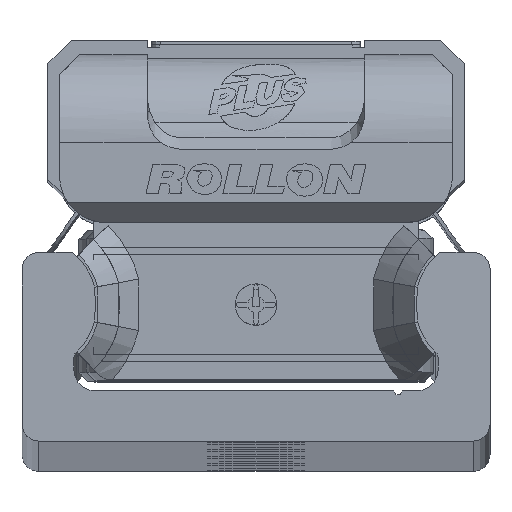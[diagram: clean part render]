
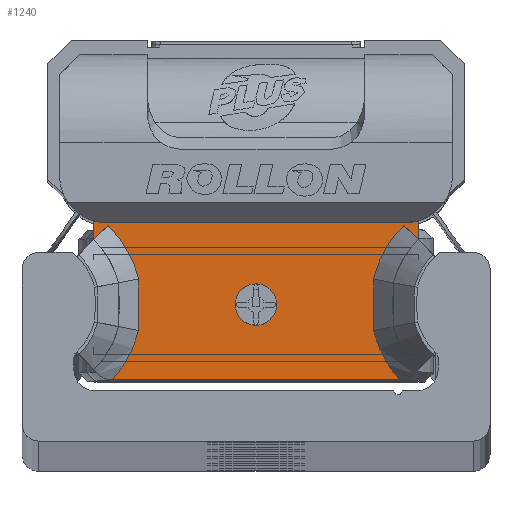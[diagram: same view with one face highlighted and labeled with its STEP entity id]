
A CAD part, top view. The second image highlights one B-rep face of the part: STEP entity #1240.
In plain terms, the highlighted planar face has unit normal (0, 0, 1) as drawn and (0, 0, -1) by its records, which use the part's own axes.
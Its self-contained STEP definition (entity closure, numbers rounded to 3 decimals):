
#1240 = ADVANCED_FACE( '', ( #2890, #2891 ), #2892, .F. );
#2890 = FACE_BOUND( '', #5101, .T. );
#2891 = FACE_OUTER_BOUND( '', #5102, .T. );
#2892 = PLANE( '', #5103 );
#5101 = EDGE_LOOP( '', ( #8725 ) );
#5102 = EDGE_LOOP( '', ( #8726, #8727, #8728, #8729, #8730, #8731, #8732, #8733, #8734, #8735, #8736, #8737, #8738, #8739 ) );
#5103 = AXIS2_PLACEMENT_3D( '', #8740, #8741, #8742 );
#8725 = ORIENTED_EDGE( '', *, *, #13471, .T. );
#8726 = ORIENTED_EDGE( '', *, *, #13472, .F. );
#8727 = ORIENTED_EDGE( '', *, *, #13473, .T. );
#8728 = ORIENTED_EDGE( '', *, *, #13474, .T. );
#8729 = ORIENTED_EDGE( '', *, *, #12751, .T. );
#8730 = ORIENTED_EDGE( '', *, *, #12591, .T. );
#8731 = ORIENTED_EDGE( '', *, *, #13475, .T. );
#8732 = ORIENTED_EDGE( '', *, *, #13476, .T. );
#8733 = ORIENTED_EDGE( '', *, *, #13477, .T. );
#8734 = ORIENTED_EDGE( '', *, *, #13478, .T. );
#8735 = ORIENTED_EDGE( '', *, *, #13479, .T. );
#8736 = ORIENTED_EDGE( '', *, *, #13480, .T. );
#8737 = ORIENTED_EDGE( '', *, *, #12661, .T. );
#8738 = ORIENTED_EDGE( '', *, *, #13175, .T. );
#8739 = ORIENTED_EDGE( '', *, *, #13481, .T. );
#8740 = CARTESIAN_POINT( '', ( 9.7, 4.89, -10.6 ) );
#8741 = DIRECTION( '', ( 0., 0., 1. ) );
#8742 = DIRECTION( '', ( 1., 0., 0. ) );
#12591 = EDGE_CURVE( '', #15038, #15039, #15040, .T. );
#12661 = EDGE_CURVE( '', #15159, #15157, #15160, .T. );
#12751 = EDGE_CURVE( '', #15309, #15038, #15315, .T. );
#13175 = EDGE_CURVE( '', #15157, #16008, #16009, .T. );
#13471 = EDGE_CURVE( '', #16460, #16460, #16461, .T. );
#13472 = EDGE_CURVE( '', #16462, #16463, #16464, .T. );
#13473 = EDGE_CURVE( '', #16462, #16465, #16466, .T. );
#13474 = EDGE_CURVE( '', #16465, #15309, #16467, .T. );
#13475 = EDGE_CURVE( '', #15039, #16468, #16469, .T. );
#13476 = EDGE_CURVE( '', #16468, #16470, #16471, .T. );
#13477 = EDGE_CURVE( '', #16470, #16472, #16473, .T. );
#13478 = EDGE_CURVE( '', #16472, #16253, #16474, .T. );
#13479 = EDGE_CURVE( '', #16253, #16475, #16476, .T. );
#13480 = EDGE_CURVE( '', #16475, #15159, #16477, .T. );
#13481 = EDGE_CURVE( '', #16008, #16463, #16478, .T. );
#15038 = VERTEX_POINT( '', #18535 );
#15039 = VERTEX_POINT( '', #18536 );
#15040 = LINE( '', #18537, #18538 );
#15157 = VERTEX_POINT( '', #18703 );
#15159 = VERTEX_POINT( '', #18706 );
#15160 = B_SPLINE_CURVE_WITH_KNOTS( '', 2, ( #18707, #18708, #18709 ), .UNSPECIFIED., .F., .F., ( 3, 3 ), ( 0., 1. ), .UNSPECIFIED. );
#15309 = VERTEX_POINT( '', #18950 );
#15315 = CIRCLE( '', #18958, 2.8 );
#16008 = VERTEX_POINT( '', #20024 );
#16009 = B_SPLINE_CURVE_WITH_KNOTS( '', 2, ( #20025, #20026, #20027 ), .UNSPECIFIED., .F., .F., ( 3, 3 ), ( 0., 1. ), .UNSPECIFIED. );
#16253 = VERTEX_POINT( '', #20343 );
#16460 = VERTEX_POINT( '', #20638 );
#16461 = CIRCLE( '', #20639, 1.25 );
#16462 = VERTEX_POINT( '', #20640 );
#16463 = VERTEX_POINT( '', #20641 );
#16464 = LINE( '', #20642, #20643 );
#16465 = VERTEX_POINT( '', #20644 );
#16466 = CIRCLE( '', #20645, 2.8 );
#16467 = LINE( '', #20646, #20647 );
#16468 = VERTEX_POINT( '', #20648 );
#16469 = LINE( '', #20649, #20650 );
#16470 = VERTEX_POINT( '', #20651 );
#16471 = B_SPLINE_CURVE_WITH_KNOTS( '', 2, ( #20652, #20653, #20654, #20655, #20656 ), .UNSPECIFIED., .F., .F., ( 3, 2, 3 ), ( 0., 0.5, 1. ), .UNSPECIFIED. );
#16472 = VERTEX_POINT( '', #20657 );
#16473 = B_SPLINE_CURVE_WITH_KNOTS( '', 2, ( #20658, #20659, #20660 ), .UNSPECIFIED., .F., .F., ( 3, 3 ), ( 0., 1. ), .UNSPECIFIED. );
#16474 = B_SPLINE_CURVE_WITH_KNOTS( '', 2, ( #20661, #20662, #20663 ), .UNSPECIFIED., .F., .F., ( 3, 3 ), ( 0., 1. ), .UNSPECIFIED. );
#16475 = VERTEX_POINT( '', #20664 );
#16476 = LINE( '', #20665, #20666 );
#16477 = B_SPLINE_CURVE_WITH_KNOTS( '', 2, ( #20667, #20668, #20669 ), .UNSPECIFIED., .F., .F., ( 3, 3 ), ( 0.1, 1. ), .UNSPECIFIED. );
#16478 = LINE( '', #20670, #20671 );
#18535 = CARTESIAN_POINT( '', ( 9.7, 4.612, -10.6 ) );
#18536 = CARTESIAN_POINT( '', ( 9.7, 3.497, -10.6 ) );
#18537 = CARTESIAN_POINT( '', ( 9.7, 4.89, -10.6 ) );
#18538 = VECTOR( '', #22825, 1000. );
#18703 = CARTESIAN_POINT( '', ( -7.031, 1.144, -10.6 ) );
#18706 = CARTESIAN_POINT( '', ( -7.031, -1.944, -10.6 ) );
#18707 = CARTESIAN_POINT( '', ( -7.031, -1.944, -10.6 ) );
#18708 = CARTESIAN_POINT( '', ( -6.929, -0.4, -10.6 ) );
#18709 = CARTESIAN_POINT( '', ( -7.031, 1.144, -10.6 ) );
#18950 = CARTESIAN_POINT( '', ( 8.95, 4.51, -10.6 ) );
#18958 = AXIS2_PLACEMENT_3D( '', #23038, #23039, #23040 );
#20024 = CARTESIAN_POINT( '', ( -8.853, 4.366, -10.6 ) );
#20025 = CARTESIAN_POINT( '', ( -7.031, 1.144, -10.6 ) );
#20026 = CARTESIAN_POINT( '', ( -7.477, 3.018, -10.6 ) );
#20027 = CARTESIAN_POINT( '', ( -8.853, 4.366, -10.6 ) );
#20343 = CARTESIAN_POINT( '', ( 8.59, -4.893, -10.6 ) );
#20638 = CARTESIAN_POINT( '', ( 1.25, -0.39, -10.6 ) );
#20639 = AXIS2_PLACEMENT_3D( '', #24063, #24064, #24065 );
#20640 = CARTESIAN_POINT( '', ( -9.7, 4.612, -10.6 ) );
#20641 = CARTESIAN_POINT( '', ( -9.7, 3.494, -10.6 ) );
#20642 = CARTESIAN_POINT( '', ( -9.7, 4.89, -10.6 ) );
#20643 = VECTOR( '', #24066, 1000. );
#20644 = CARTESIAN_POINT( '', ( -8.95, 4.51, -10.6 ) );
#20645 = AXIS2_PLACEMENT_3D( '', #24067, #24068, #24069 );
#20646 = CARTESIAN_POINT( '', ( 9.7, 4.51, -10.6 ) );
#20647 = VECTOR( '', #24070, 1000. );
#20648 = CARTESIAN_POINT( '', ( 8.853, 4.366, -10.6 ) );
#20649 = CARTESIAN_POINT( '', ( 9.7, 3.501, -10.6 ) );
#20650 = VECTOR( '', #24071, 1000. );
#20651 = CARTESIAN_POINT( '', ( 7.031, 1.144, -10.6 ) );
#20652 = CARTESIAN_POINT( '', ( 8.853, 4.366, -10.6 ) );
#20653 = CARTESIAN_POINT( '', ( 8.182, 3.708, -10.6 ) );
#20654 = CARTESIAN_POINT( '', ( 7.715, 2.883, -10.6 ) );
#20655 = CARTESIAN_POINT( '', ( 7.249, 2.058, -10.6 ) );
#20656 = CARTESIAN_POINT( '', ( 7.031, 1.144, -10.6 ) );
#20657 = CARTESIAN_POINT( '', ( 7.031, -1.944, -10.6 ) );
#20658 = CARTESIAN_POINT( '', ( 7.031, 1.144, -10.6 ) );
#20659 = CARTESIAN_POINT( '', ( 6.929, -0.4, -10.6 ) );
#20660 = CARTESIAN_POINT( '', ( 7.031, -1.944, -10.6 ) );
#20661 = CARTESIAN_POINT( '', ( 7.031, -1.944, -10.6 ) );
#20662 = CARTESIAN_POINT( '', ( 7.429, -3.615, -10.6 ) );
#20663 = CARTESIAN_POINT( '', ( 8.588, -4.89, -10.6 ) );
#20664 = CARTESIAN_POINT( '', ( -8.59, -4.893, -10.6 ) );
#20665 = CARTESIAN_POINT( '', ( 9.7, -4.89, -10.6 ) );
#20666 = VECTOR( '', #24072, 1000. );
#20667 = CARTESIAN_POINT( '', ( -8.587, -4.89, -10.6 ) );
#20668 = CARTESIAN_POINT( '', ( -7.432, -3.63, -10.6 ) );
#20669 = CARTESIAN_POINT( '', ( -7.031, -1.944, -10.6 ) );
#20670 = CARTESIAN_POINT( '', ( -8.853, 4.366, -10.6 ) );
#20671 = VECTOR( '', #24073, 1000. );
#22825 = DIRECTION( '', ( 0., -1., 0. ) );
#23038 = CARTESIAN_POINT( '', ( 8.95, 7.31, -10.6 ) );
#23039 = DIRECTION( '', ( 0., 0., 1. ) );
#23040 = DIRECTION( '', ( 1., 0., 0. ) );
#24063 = CARTESIAN_POINT( '', ( 0., -0.39, -10.6 ) );
#24064 = DIRECTION( '', ( 0., 0., 1. ) );
#24065 = DIRECTION( '', ( 1., 0., 0. ) );
#24066 = DIRECTION( '', ( 0., -1., 0. ) );
#24067 = CARTESIAN_POINT( '', ( -8.95, 7.31, -10.6 ) );
#24068 = DIRECTION( '', ( 0., 0., 1. ) );
#24069 = DIRECTION( '', ( 1., 0., 0. ) );
#24070 = DIRECTION( '', ( 1., 0., 0. ) );
#24071 = DIRECTION( '', ( -0.7, 0.714, 0. ) );
#24072 = DIRECTION( '', ( -1., 0., 0. ) );
#24073 = DIRECTION( '', ( -0.7, -0.714, 0. ) );
